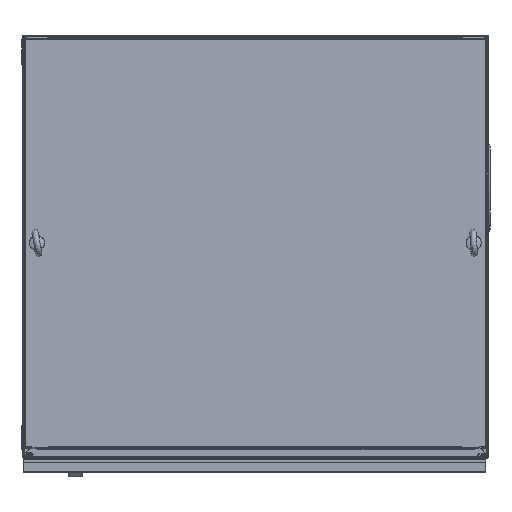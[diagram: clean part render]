
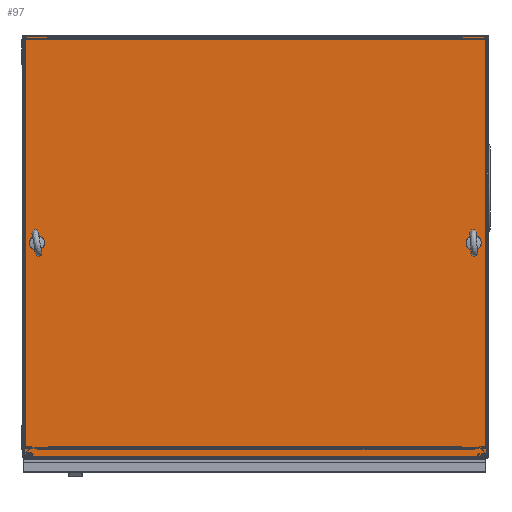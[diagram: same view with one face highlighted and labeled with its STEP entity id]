
A CAD part, top view. The second image highlights one B-rep face of the part: STEP entity #97.
In plain terms, the highlighted planar face has unit normal (0, 0, 1).
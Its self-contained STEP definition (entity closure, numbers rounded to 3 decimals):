
#97=ADVANCED_FACE('',(#3950,#3952,#3954),#3956,.T.);
#3950=FACE_BOUND('',#3951,.T.);
#3951=EDGE_LOOP('',(#40723,#40724,#40725,#40726,#40727,#40728,#40729,#40730));
#3952=FACE_BOUND('',#3953,.T.);
#3953=EDGE_LOOP('',(#40731));
#3954=FACE_BOUND('',#3955,.T.);
#3955=EDGE_LOOP('',(#40732));
#3956=PLANE('',#3957);
#3957=AXIS2_PLACEMENT_3D('',#3958,#3959,#3960);
#3958=CARTESIAN_POINT('',(-874.75,776.5,3.));
#3959=DIRECTION('',(0.,0.,1.));
#3960=DIRECTION('',(1.,0.,0.));
#40723=ORIENTED_EDGE('',*,*,#63753,.T.);
#40724=ORIENTED_EDGE('',*,*,#63754,.T.);
#40725=ORIENTED_EDGE('',*,*,#63755,.T.);
#40726=ORIENTED_EDGE('',*,*,#63756,.T.);
#40727=ORIENTED_EDGE('',*,*,#63757,.T.);
#40728=ORIENTED_EDGE('',*,*,#63758,.T.);
#40729=ORIENTED_EDGE('',*,*,#63759,.T.);
#40730=ORIENTED_EDGE('',*,*,#63760,.T.);
#40731=ORIENTED_EDGE('',*,*,#63761,.F.);
#40732=ORIENTED_EDGE('',*,*,#63762,.F.);
#63753=EDGE_CURVE('',#73960,#73961,#73962,.T.);
#63754=EDGE_CURVE('',#73961,#73963,#73964,.T.);
#63755=EDGE_CURVE('',#73963,#73965,#73966,.T.);
#63756=EDGE_CURVE('',#73965,#73967,#73968,.T.);
#63757=EDGE_CURVE('',#73967,#73969,#73970,.T.);
#63758=EDGE_CURVE('',#73969,#73971,#73972,.T.);
#63759=EDGE_CURVE('',#73971,#73973,#73974,.T.);
#63760=EDGE_CURVE('',#73973,#73960,#73975,.T.);
#63761=EDGE_CURVE('',#73976,#73976,#73977,.T.);
#63762=EDGE_CURVE('',#73978,#73978,#73979,.T.);
#73960=VERTEX_POINT('',#81925);
#73961=VERTEX_POINT('',#81926);
#73962=CIRCLE('',#81927,1.5);
#73963=VERTEX_POINT('',#81931);
#73964=LINE('',#81932,#81933);
#73965=VERTEX_POINT('',#81935);
#73966=CIRCLE('',#81936,1.5);
#73967=VERTEX_POINT('',#81940);
#73968=LINE('',#81941,#81942);
#73969=VERTEX_POINT('',#81944);
#73970=CIRCLE('',#81945,1.5);
#73971=VERTEX_POINT('',#81949);
#73972=LINE('',#81950,#81951);
#73973=VERTEX_POINT('',#81953);
#73974=CIRCLE('',#81954,1.5);
#73975=LINE('',#81958,#81959);
#73976=VERTEX_POINT('',#81961);
#73977=CIRCLE('',#81962,14.85);
#73978=VERTEX_POINT('',#81966);
#73979=CIRCLE('',#81967,14.85);
#81925=CARTESIAN_POINT('',(-874.75,-40.775,3.));
#81926=CARTESIAN_POINT('',(-874.525,-41.,3.));
#81927=AXIS2_PLACEMENT_3D('',#81928,#81929,#81930);
#81928=CARTESIAN_POINT('',(-875.692,-41.942,3.));
#81929=DIRECTION('',(0.,0.,-1.));
#81930=DIRECTION('',(0.628,0.778,0.));
#81931=CARTESIAN_POINT('',(25.525,-41.,3.));
#81932=CARTESIAN_POINT('',(-874.525,-41.,3.));
#81933=VECTOR('',#81934,1.);
#81934=DIRECTION('',(1.,0.,0.));
#81935=CARTESIAN_POINT('',(25.75,-40.775,3.));
#81936=AXIS2_PLACEMENT_3D('',#81937,#81938,#81939);
#81937=CARTESIAN_POINT('',(26.692,-41.942,3.));
#81938=DIRECTION('',(0.,0.,-1.));
#81939=DIRECTION('',(-0.778,0.628,0.));
#81940=CARTESIAN_POINT('',(25.75,776.275,3.));
#81941=CARTESIAN_POINT('',(25.75,-40.775,3.));
#81942=VECTOR('',#81943,1.);
#81943=DIRECTION('',(0.,1.,0.));
#81944=CARTESIAN_POINT('',(25.525,776.5,3.));
#81945=AXIS2_PLACEMENT_3D('',#81946,#81947,#81948);
#81946=CARTESIAN_POINT('',(26.692,777.442,3.));
#81947=DIRECTION('',(0.,0.,-1.));
#81948=DIRECTION('',(-0.628,-0.778,0.));
#81949=CARTESIAN_POINT('',(-874.525,776.5,3.));
#81950=CARTESIAN_POINT('',(25.525,776.5,3.));
#81951=VECTOR('',#81952,1.);
#81952=DIRECTION('',(-1.,0.,0.));
#81953=CARTESIAN_POINT('',(-874.75,776.275,3.));
#81954=AXIS2_PLACEMENT_3D('',#81955,#81956,#81957);
#81955=CARTESIAN_POINT('',(-875.692,777.442,3.));
#81956=DIRECTION('',(0.,0.,-1.));
#81957=DIRECTION('',(0.778,-0.628,0.));
#81958=CARTESIAN_POINT('',(-874.75,776.275,3.));
#81959=VECTOR('',#81960,1.);
#81960=DIRECTION('',(0.,-1.,0.));
#81961=CARTESIAN_POINT('',(-847.418,360.376,3.));
#81962=AXIS2_PLACEMENT_3D('',#81963,#81964,#81965);
#81963=CARTESIAN_POINT('',(-850.,375.,3.));
#81964=DIRECTION('',(0.,0.,1.));
#81965=DIRECTION('',(0.174,-0.985,0.));
#81966=CARTESIAN_POINT('',(0.945,360.18,3.));
#81967=AXIS2_PLACEMENT_3D('',#81968,#81969,#81970);
#81968=CARTESIAN_POINT('',(0.,375.,3.));
#81969=DIRECTION('',(0.,0.,1.));
#81970=DIRECTION('',(0.064,-0.998,0.));
